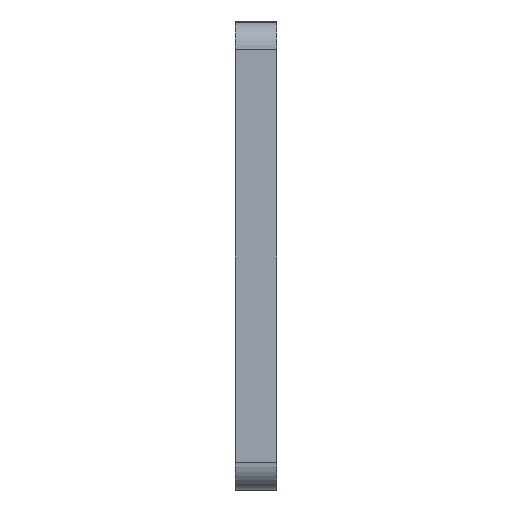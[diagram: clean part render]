
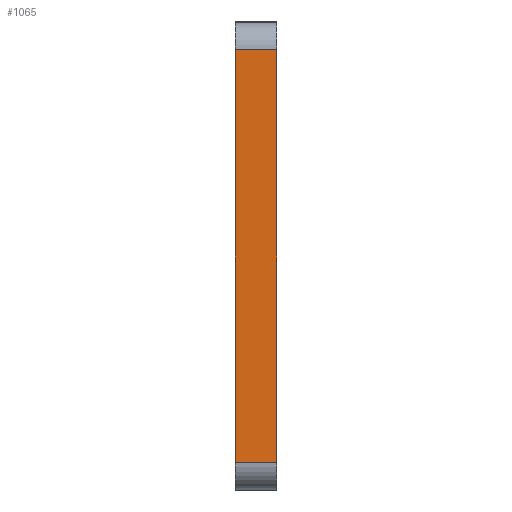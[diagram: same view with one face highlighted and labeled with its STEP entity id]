
A CAD part, left-side view. The second image highlights one B-rep face of the part: STEP entity #1065.
In plain terms, the highlighted planar face has unit normal (-1, 0, 0).
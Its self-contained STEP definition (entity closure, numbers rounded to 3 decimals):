
#14 = ORIENTED_EDGE ( 'NONE', *, *, #5378, .T. ) ;
#75 = ORIENTED_EDGE ( 'NONE', *, *, #4865, .T. ) ;
#78 = CARTESIAN_POINT ( 'NONE',  ( -265., 0., -85. ) ) ;
#514 = DIRECTION ( 'NONE',  ( 0., -1., 0. ) ) ;
#518 = PLANE ( 'NONE',  #3134 ) ;
#602 = VERTEX_POINT ( 'NONE', #3969 ) ;
#620 = VERTEX_POINT ( 'NONE', #3343 ) ;
#1015 = EDGE_CURVE ( 'NONE', #7914, #620, #4603, .T. ) ;
#1065 = ADVANCED_FACE ( 'NONE', ( #6674 ), #518, .F. ) ;
#1218 = DIRECTION ( 'NONE',  ( 0., 0., -1. ) ) ;
#1427 = ORIENTED_EDGE ( 'NONE', *, *, #1015, .T. ) ;
#1938 = LINE ( 'NONE', #7479, #1984 ) ;
#1984 = VECTOR ( 'NONE', #514, 1000. ) ;
#2233 = CARTESIAN_POINT ( 'NONE',  ( -265., 15., -85. ) ) ;
#2812 = DIRECTION ( 'NONE',  ( 0., 0., 1. ) ) ;
#3134 = AXIS2_PLACEMENT_3D ( 'NONE', #4646, #7389, #1218 ) ;
#3343 = CARTESIAN_POINT ( 'NONE',  ( -265., 15., 75. ) ) ;
#3969 = CARTESIAN_POINT ( 'NONE',  ( -265., 15., -75. ) ) ;
#4008 = EDGE_CURVE ( 'NONE', #602, #620, #5663, .T. ) ;
#4214 = LINE ( 'NONE', #78, #7427 ) ;
#4411 = EDGE_LOOP ( 'NONE', ( #6917, #75, #14, #1427 ) ) ;
#4603 = LINE ( 'NONE', #8837, #7163 ) ;
#4646 = CARTESIAN_POINT ( 'NONE',  ( -265., 15., -85. ) ) ;
#4865 = EDGE_CURVE ( 'NONE', #602, #5115, #1938, .T. ) ;
#5018 = CARTESIAN_POINT ( 'NONE',  ( -265., 0., 75. ) ) ;
#5115 = VERTEX_POINT ( 'NONE', #7103 ) ;
#5184 = DIRECTION ( 'NONE',  ( 0., 1., 0. ) ) ;
#5272 = VECTOR ( 'NONE', #7148, 1000. ) ;
#5378 = EDGE_CURVE ( 'NONE', #5115, #7914, #4214, .T. ) ;
#5663 = LINE ( 'NONE', #2233, #5272 ) ;
#6674 = FACE_OUTER_BOUND ( 'NONE', #4411, .T. ) ;
#6917 = ORIENTED_EDGE ( 'NONE', *, *, #4008, .F. ) ;
#7103 = CARTESIAN_POINT ( 'NONE',  ( -265., 0., -75. ) ) ;
#7148 = DIRECTION ( 'NONE',  ( 0., 0., 1. ) ) ;
#7163 = VECTOR ( 'NONE', #5184, 1000. ) ;
#7389 = DIRECTION ( 'NONE',  ( 1., 0., 0. ) ) ;
#7427 = VECTOR ( 'NONE', #2812, 1000. ) ;
#7479 = CARTESIAN_POINT ( 'NONE',  ( -265., 15., -75. ) ) ;
#7914 = VERTEX_POINT ( 'NONE', #5018 ) ;
#8837 = CARTESIAN_POINT ( 'NONE',  ( -265., 15., 75. ) ) ;
